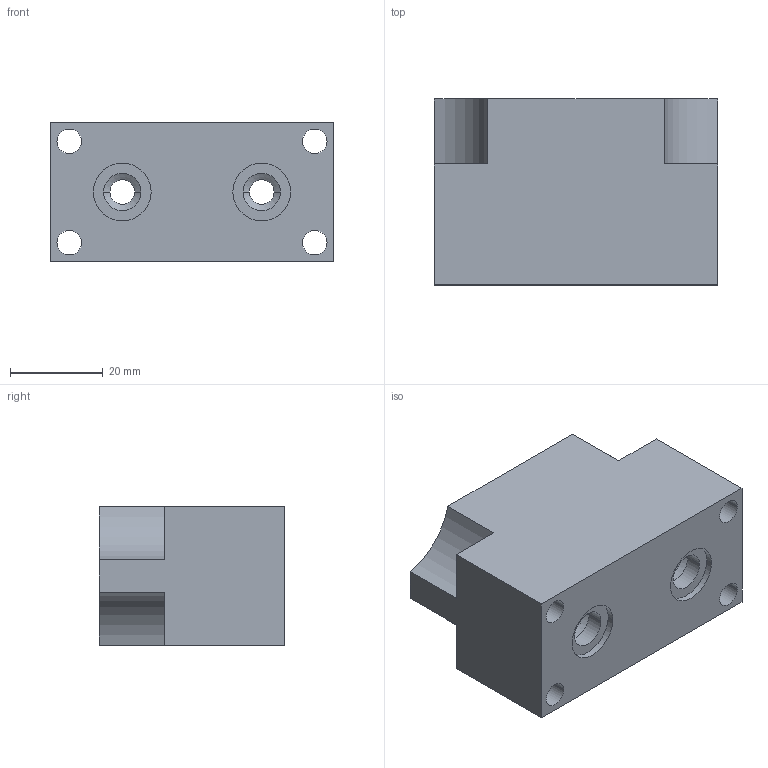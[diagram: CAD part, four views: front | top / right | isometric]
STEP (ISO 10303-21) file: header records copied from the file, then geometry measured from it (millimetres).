
FILE_DESCRIPTION((''),'2;1');
FILE_NAME('200019','2020-09-09T',('l.soukupova'),(''),'PRO/ENGINEER BY PARAMETRIC TECHNOLOGY CORPORATION, 2015440','PRO/ENGINEER BY PARAMETRIC TECHNOLOGY CORPORATION, 2015440','');
FILE_SCHEMA(('AUTOMOTIVE_DESIGN { 1 0 10303 214 1 1 1 1 }'));
Length unit declared in the file: millimetre
Products named in the file (1): 200019
Bounding box: 61 x 40 x 30 mm (x, y, z)
Volume: 60252.5 mm3; surface area: 15164.6 mm2
Topology: 1 solids, 3 shells, 64 faces, 177 edges, 136 vertices
Faces by surface type: cylinder 36, plane 16, cone 12
Entity records: 2699 total; most frequent: DIRECTION 391, CARTESIAN_POINT 344, ORIENTED_EDGE 296, PRESENTATION_STYLE_ASSIGNMENT 185, STYLED_ITEM 185, CURVE_STYLE 182, EDGE_CURVE 152, AXIS2_PLACEMENT_3D 147
